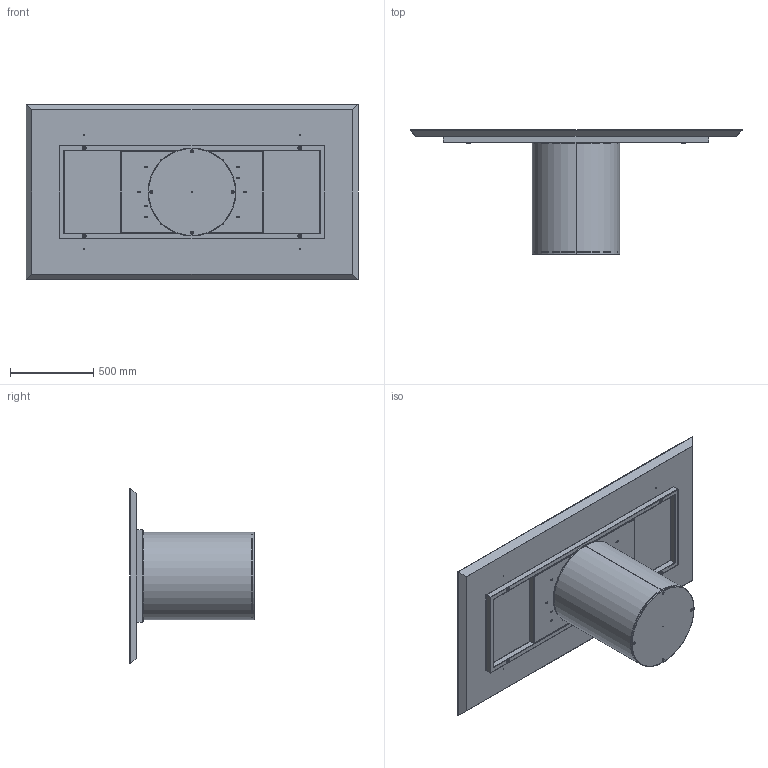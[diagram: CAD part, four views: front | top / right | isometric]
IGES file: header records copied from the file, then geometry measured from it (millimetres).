
Start section: SolidWorks IGES file using analytic representation for surfaces
Global section: file name: Y:\eforma\TECNICO\SOLIDWORKS\E-FORMA\1-TAVOLI\CILINDRO\02 parts\CI21W.IGS; native system: SolidWorks 2022; preprocessor: SolidWorks 2022; author: eforma.tech; date: 240808.092248; units: millimetre
Bounding box: 2000 x 748 x 1060 mm (x, y, z)
Volume: 85514148.9 mm3; surface area: 9458870.3 mm2
Topology: 20 solids, 20 shells, 752 faces, 1780 edges, 1025 vertices
Faces by surface type: revolution 452, plane 300
